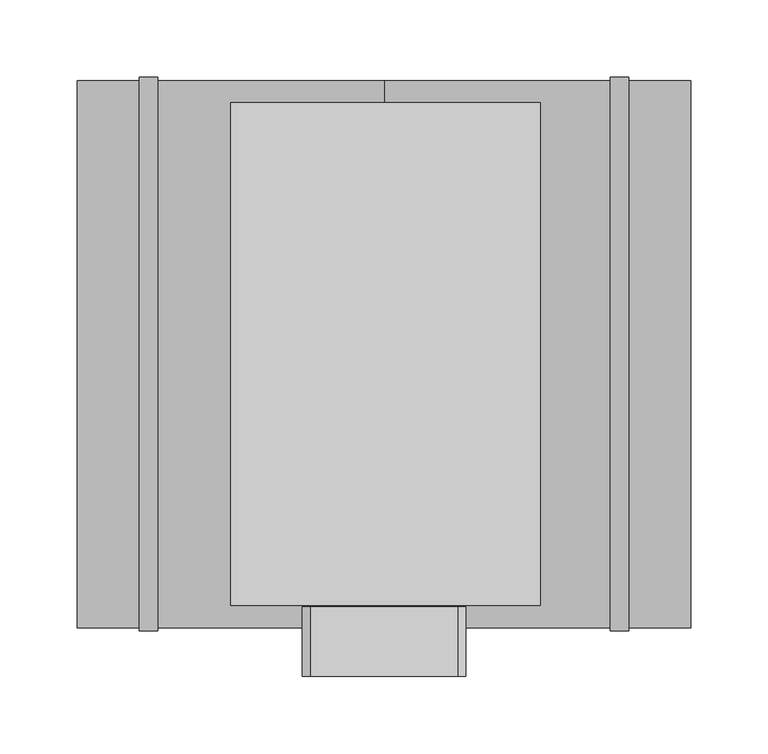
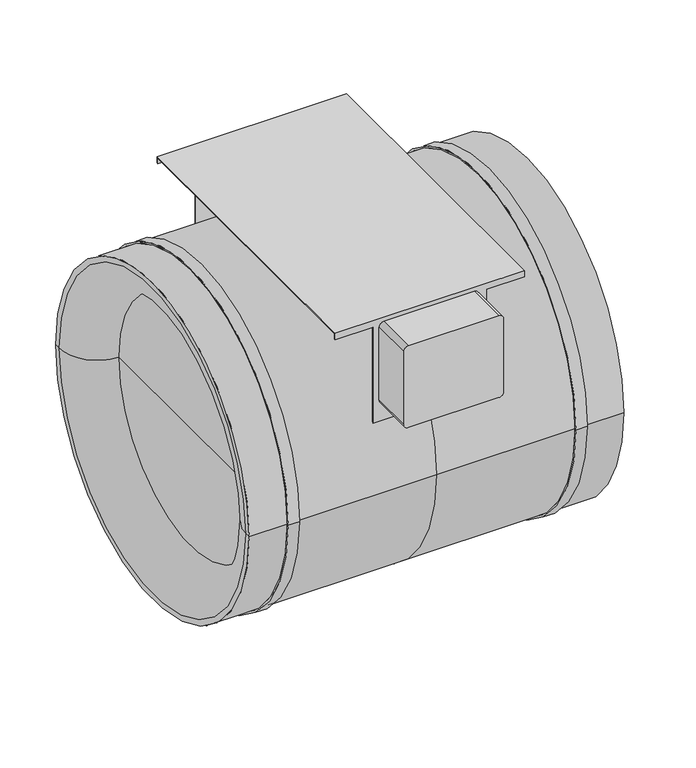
"""IFC4 building model written with IfcOpenShell, lengths in millimetres: unitary equipment geometry, VE-Wentylator-ParaForma-Harmann-JETTEC-Nawiewny : 355/2600S."""

from ifc_helpers import new_model, si_unit, point, frame, frame_2d, origin, place, context, project, spatial, polyline, circle_curve, ellipse_curve, trimmed, segment, composite_curve, outline, extrude, source, transform, mapped, element, save
from ifc_brep_helpers import plane_surface, cylinder_surface, revolved_surface, advanced_brep


def unitary_equipment_868456c3(model_context):
    return source(origin(), model_context, "Body", "SolidModel", [
        extrude(outline(composite_curve([segment(polyline([(88.6, -47.7), (88.6, 47.7)]), True, "CONTINUOUS"), segment(trimmed(circle_curve(frame_2d((93.6, 47.7)), 5.0), [point((88.6, 47.7))], [point((93.6, 52.7))], False, "CARTESIAN"), True, "CONTINUOUS"), segment(polyline([(93.6, 52.7), (174.6, 52.7)]), True, "CONTINUOUS"), segment(trimmed(circle_curve(frame_2d((174.6, 47.7)), 5.0), [point((174.6, 52.7))], [point((179.6, 47.7))], False, "CARTESIAN"), True, "CONTINUOUS"), segment(polyline([(179.6, 47.7), (179.6, -47.7)]), True, "CONTINUOUS"), segment(trimmed(circle_curve(frame_2d((174.6, -47.7)), 5.0), [point((179.6, -47.7))], [point((174.6, -52.7))], False, "CARTESIAN"), True, "CONTINUOUS"), segment(polyline([(174.6, -52.7), (93.6, -52.7)]), True, "CONTINUOUS"), segment(trimmed(circle_curve(frame_2d((93.6, -47.7)), 5.0), [point((93.6, -52.7))], [point((88.6, -47.7))], False, "CARTESIAN"), True, "CONTINUOUS")], self_intersect=False)), frame((0.0, -208.3, 0.0), z_axis=(0.0, 1.0, 0.0), x_axis=(0.0, 0.0, 1.0)), (0.0, 0.0, 1.0), 45.0),
        advanced_brep(
        [(101.0, 162.5, 176.8), (101.0, 162.5, 183.8), (101.0, -162.5, 183.8), (101.0, -162.5, 176.8), (101.0, -161.5, 176.8), (101.0, -161.5, 182.8), (101.0, 161.5, 182.8), (101.0, 161.5, 176.8), (61.0, 161.5, 176.8), (61.0, 162.5, 176.8), (-99.0, 161.5, 182.8), (-99.0, 161.5, 176.8), (-59.0, 161.5, 176.8), (-59.0, 161.5, 71.8213931), (61.0, 161.5, 71.8213931), (-99.0, -161.5, 182.8), (61.0, -161.5, 176.8), (61.0, -161.5, 71.8213931), (-59.0, -161.5, 71.8213931), (-59.0, -161.5, 176.8), (-99.0, -161.5, 176.8), (61.0, -162.5, 176.8), (-99.0, -162.5, 183.8), (-99.0, -162.5, 176.8), (-59.0, -162.5, 176.8), (-59.0, -162.5, 69.5292205), (61.0, -162.5, 69.5292205), (-99.0, 162.5, 183.8), (61.0, 162.5, 69.5292205), (-59.0, 162.5, 69.5292205), (-59.0, 162.5, 176.8), (-99.0, 162.5, 176.8)],
        [
            (0, 1),
            (1, 2),
            (2, 3),
            (3, 4),
            (4, 5),
            (5, 6),
            (6, 7),
            (7, 0),
            (7, 8),
            (8, 9),
            (9, 0),
            (6, 10),
            (10, 11),
            (11, 12),
            (12, 13),
            (13, 14),
            (14, 8),
            (5, 15),
            (15, 10),
            (4, 16),
            (16, 17),
            (17, 18),
            (18, 19),
            (19, 20),
            (20, 15),
            (3, 21),
            (21, 16),
            (2, 22),
            (22, 23),
            (23, 24),
            (24, 25),
            (25, 26),
            (26, 21),
            (1, 27),
            (27, 22),
            (9, 28),
            (28, 29),
            (29, 30),
            (30, 31),
            (31, 27),
            (29, 13, circle_curve(frame((-59.0, 0.0, 0.0), z_axis=(1.0, 0.0, 0.0), x_axis=(0.0, 1.0, 0.0)), 176.75)),
            (12, 30),
            (18, 25, circle_curve(frame((-59.0, 0.0, 0.0), z_axis=(1.0, 0.0, 0.0), x_axis=(0.0, 1.0, 0.0)), 176.75)),
            (24, 19),
            (14, 28, circle_curve(frame((61.0, 0.0, 0.0), z_axis=(-1.0, 0.0, 0.0), x_axis=(0.0, 1.0, 0.0)), 176.75)),
            (26, 17, circle_curve(frame((61.0, 0.0, 0.0), z_axis=(-1.0, 0.0, 0.0), x_axis=(0.0, 1.0, 0.0)), 176.75)),
            (31, 11),
            (20, 23),
        ],
        [
            plane_surface(frame((101.0, 0.0, 0.0), z_axis=(1.0, 0.0, 0.0), x_axis=(0.0, 0.0, 1.0))),
            plane_surface(frame((61.0, 162.5, 176.8), z_axis=(0.0, 0.0, -1.0), x_axis=(1.0, 0.0, 0.0))),
            plane_surface(frame((61.0, 161.5, 176.8), z_axis=(0.0, -1.0, 0.0), x_axis=(1.0, 0.0, 0.0))),
            plane_surface(frame((61.0, -153.1677351, 182.8), z_axis=(0.0, 0.0, -1.0), x_axis=(1.0, 0.0, 0.0))),
            plane_surface(frame((61.0, -161.5, 182.8), z_axis=(0.0, 1.0, 0.0), x_axis=(1.0, 0.0, 0.0))),
            plane_surface(frame((61.0, -161.5, 176.8), z_axis=(0.0, 0.0, -1.0), x_axis=(1.0, 0.0, 0.0))),
            plane_surface(frame((61.0, -162.5, 176.8), z_axis=(0.0, -1.0, 0.0), x_axis=(1.0, 0.0, 0.0))),
            plane_surface(frame((61.0, 152.5, 183.8), z_axis=(0.0, 0.0, 1.0), x_axis=(1.0, 0.0, 0.0))),
            plane_surface(frame((61.0, 162.5, 183.8), z_axis=(0.0, 1.0, 0.0), x_axis=(1.0, 0.0, 0.0))),
            plane_surface(frame((-59.0, 0.0, 0.0), z_axis=(-1.0, 0.0, 0.0), x_axis=(0.0, 0.0, 1.0))),
            plane_surface(frame((61.0, 0.0, 0.0), z_axis=(1.0, 0.0, 0.0), x_axis=(0.0, 0.0, 1.0))),
            revolved_surface(polyline([(-59.0, 176.75, 0.0), (61.0, 176.75, 0.0)]), (-59.0, 0.0, 0.0), (-1.0, 0.0, 0.0)),
            plane_surface(frame((-99.0, 0.0, 0.0), z_axis=(-1.0, 0.0, 0.0), x_axis=(0.0, 0.0, 1.0))),
            plane_surface(frame((-99.0, 162.5, 176.8), z_axis=(0.0, 0.0, -1.0), x_axis=(1.0, 0.0, 0.0))),
            plane_surface(frame((-99.0, -161.5, 176.8), z_axis=(0.0, 0.0, -1.0), x_axis=(1.0, 0.0, 0.0))),
        ],
        [
            (0, [[1, 2, 3, 4, 5, 6, 7, 8]]),
            (1, [[-8, 9, 10, 11]]),
            (2, [[-7, 12, 13, 14, 15, 16, 17, -9]]),
            (3, [[-12, -6, 18, 19]]),
            (4, [[-18, -5, 20, 21, 22, 23, 24, 25]]),
            (5, [[-4, 26, 27, -20]]),
            (6, [[-3, 28, 29, 30, 31, 32, 33, -26]]),
            (7, [[-28, -2, 34, 35]]),
            (8, [[-34, -1, -11, 36, 37, 38, 39, 40]]),
            (9, [[41, -15, 42, -38]]),
            (9, [[43, -31, 44, -23]]),
            (10, [[45, -36, -10, -17]]),
            (10, [[46, -21, -27, -33]]),
            (11, [[-41, -37, -45, -16]]),
            (11, [[-43, -22, -46, -32]]),
            (12, [[47, -13, -19, -25, 48, -29, -35, -40]]),
            (13, [[-47, -39, -42, -14]]),
            (14, [[-48, -24, -44, -30]]),
        ],
    ),
        advanced_brep(
        [(-146.0, 176.8, 0.0), (0.0, 176.8, 0.0), (0.0, -176.8, 0.0), (-146.0, -176.8, 0.0), (-198.0, -176.8, 0.0), (-198.0, 176.8, 0.0), (-158.0, 176.8, 0.0), (-158.0, -176.8, 0.0), (-198.0, -171.0, 0.0), (-198.0, 171.0, 0.0), (-158.0, -131.0, 0.0), (-158.0, 131.0, 0.0), (-158.0, 0.0, 0.0), (198.0, -176.8, 0.0), (198.0, 176.8, 0.0), (198.0, 0.0, 0.0), (158.0, -176.8, 0.0), (158.0, 176.8, 0.0), (146.0, 176.8, 0.0), (146.0, -176.8, 0.0), (-146.0, -178.8, 0.0), (-146.0, 178.8, 0.0), (-158.0, -178.8, 0.0), (-158.0, 178.8, 0.0), (158.0, -178.8, 0.0), (158.0, 178.8, 0.0), (146.0, -178.8, 0.0), (146.0, 178.8, 0.0)],
        [
            (0, 1),
            (1, 2, circle_curve(frame((0.0, 0.0, 0.0), z_axis=(-1.0, 0.0, 0.0), x_axis=(0.0, 1.0, 0.0)), 176.8)),
            (2, 3),
            (3, 0, circle_curve(frame((-146.0, 0.0, 0.0), z_axis=(1.0, 0.0, 0.0), x_axis=(0.0, 1.0, 0.0)), 176.8)),
            (0, 3, circle_curve(frame((-146.0, 0.0, 0.0), z_axis=(1.0, 0.0, 0.0), x_axis=(0.0, 1.0, 0.0)), 176.8)),
            (2, 1, circle_curve(frame((0.0, 0.0, 0.0), z_axis=(-1.0, 0.0, 0.0), x_axis=(0.0, 1.0, 0.0)), 176.8)),
            (4, 5, circle_curve(frame((-198.0, 0.0, 0.0), z_axis=(1.0, 0.0, 0.0), x_axis=(0.0, 1.0, 0.0)), 176.8)),
            (5, 6),
            (6, 7, circle_curve(frame((-158.0, 0.0, 0.0), z_axis=(-1.0, 0.0, 0.0), x_axis=(0.0, 1.0, 0.0)), 176.8)),
            (7, 4),
            (5, 4, circle_curve(frame((-198.0, 0.0, 0.0), z_axis=(1.0, 0.0, 0.0), x_axis=(0.0, 1.0, 0.0)), 176.8)),
            (7, 6, circle_curve(frame((-158.0, 0.0, 0.0), z_axis=(-1.0, 0.0, 0.0), x_axis=(0.0, 1.0, 0.0)), 176.8)),
            (4, 8),
            (8, 9, circle_curve(frame((-198.0, 0.0, 0.0), z_axis=(1.0, 0.0, 0.0), x_axis=(0.0, 1.0, 0.0)), 171.0)),
            (9, 5),
            (9, 8, circle_curve(frame((-198.0, 0.0, 0.0), z_axis=(1.0, 0.0, 0.0), x_axis=(0.0, 1.0, 0.0)), 171.0)),
            (8, 10, circle_curve(frame((-158.0, -171.0, 0.0), z_axis=(0.0, 0.0, -1.0), x_axis=(1.0, 0.0, 0.0)), 40.0)),
            (10, 11, circle_curve(frame((-158.0, 0.0, 0.0), z_axis=(1.0, 0.0, 0.0), x_axis=(0.0, 1.0, 0.0)), 131.0)),
            (11, 9, circle_curve(frame((-158.0, 171.0, 0.0), z_axis=(0.0, 0.0, -1.0), x_axis=(1.0, 0.0, 0.0)), 40.0)),
            (11, 10, circle_curve(frame((-158.0, 0.0, 0.0), z_axis=(1.0, 0.0, 0.0), x_axis=(0.0, 1.0, 0.0)), 131.0)),
            (10, 12),
            (12, 11),
            (13, 14, circle_curve(frame((198.0, 0.0, 0.0), z_axis=(1.0, 0.0, 0.0), x_axis=(0.0, 1.0, 0.0)), 176.8)),
            (14, 15),
            (15, 13),
            (14, 13, circle_curve(frame((198.0, 0.0, 0.0), z_axis=(1.0, 0.0, 0.0), x_axis=(0.0, 1.0, 0.0)), 176.8)),
            (13, 16),
            (16, 17, circle_curve(frame((158.0, 0.0, 0.0), z_axis=(1.0, 0.0, 0.0), x_axis=(0.0, 1.0, 0.0)), 176.8)),
            (17, 14),
            (17, 16, circle_curve(frame((158.0, 0.0, 0.0), z_axis=(1.0, 0.0, 0.0), x_axis=(0.0, 1.0, 0.0)), 176.8)),
            (1, 18),
            (18, 19, circle_curve(frame((146.0, 0.0, 0.0), z_axis=(-1.0, 0.0, 0.0), x_axis=(0.0, 1.0, 0.0)), 176.8)),
            (19, 2),
            (19, 18, circle_curve(frame((146.0, 0.0, 0.0), z_axis=(-1.0, 0.0, 0.0), x_axis=(0.0, 1.0, 0.0)), 176.8)),
            (20, 21, circle_curve(frame((-146.0, 0.0, 0.0), z_axis=(1.0, 0.0, 0.0), x_axis=(0.0, 1.0, 0.0)), 178.8)),
            (21, 0),
            (3, 20),
            (21, 20, circle_curve(frame((-146.0, 0.0, 0.0), z_axis=(1.0, 0.0, 0.0), x_axis=(0.0, 1.0, 0.0)), 178.8)),
            (20, 22),
            (22, 23, circle_curve(frame((-158.0, 0.0, 0.0), z_axis=(1.0, 0.0, 0.0), x_axis=(0.0, 1.0, 0.0)), 178.8)),
            (23, 21),
            (23, 22, circle_curve(frame((-158.0, 0.0, 0.0), z_axis=(1.0, 0.0, 0.0), x_axis=(0.0, 1.0, 0.0)), 178.8)),
            (22, 7),
            (6, 23),
            (24, 25, circle_curve(frame((158.0, 0.0, 0.0), z_axis=(1.0, 0.0, 0.0), x_axis=(0.0, 1.0, 0.0)), 178.8)),
            (25, 17),
            (16, 24),
            (25, 24, circle_curve(frame((158.0, 0.0, 0.0), z_axis=(1.0, 0.0, 0.0), x_axis=(0.0, 1.0, 0.0)), 178.8)),
            (24, 26),
            (26, 27, circle_curve(frame((146.0, 0.0, 0.0), z_axis=(1.0, 0.0, 0.0), x_axis=(0.0, 1.0, 0.0)), 178.8)),
            (27, 25),
            (27, 26, circle_curve(frame((146.0, 0.0, 0.0), z_axis=(1.0, 0.0, 0.0), x_axis=(0.0, 1.0, 0.0)), 178.8)),
            (26, 19),
            (18, 27),
        ],
        [
            cylinder_surface(frame((-158.0, 0.0, 0.0), z_axis=(-1.0, 0.0, 0.0), x_axis=(0.0, 1.0, 0.0)), 176.8),
            plane_surface(frame((-198.0, 0.0, 0.0), z_axis=(-1.0, 0.0, 0.0), x_axis=(0.0, 1.0, 0.0))),
            revolved_surface(trimmed(ellipse_curve(frame((-158.0, 171.0, 0.0), z_axis=(0.0, 0.0, 1.0), x_axis=(1.0, 0.0, 0.0)), 40.0, 40.0), [point((-198.0, 171.0, 0.0))], [point((-158.0, 131.0, 0.0))], True, "CARTESIAN"), (-158.0, 0.0, 0.0), (-1.0, 0.0, 0.0)),
            plane_surface(frame((-158.0, 0.0, 0.0), z_axis=(-1.0, 0.0, 0.0), x_axis=(0.0, 1.0, 0.0))),
            plane_surface(frame((198.0, 0.0, 0.0), z_axis=(1.0, 0.0, 0.0), x_axis=(0.0, 1.0, 0.0))),
            cylinder_surface(frame((0.0, 0.0, 0.0), z_axis=(-1.0, 0.0, 0.0), x_axis=(0.0, 1.0, 0.0)), 176.8),
            plane_surface(frame((-146.0, 0.0, 0.0), z_axis=(1.0, 0.0, 0.0), x_axis=(0.0, 1.0, 0.0))),
            cylinder_surface(frame((-158.0, 0.0, 0.0), z_axis=(-1.0, 0.0, 0.0), x_axis=(0.0, 1.0, 0.0)), 178.8),
            plane_surface(frame((158.0, 0.0, 0.0), z_axis=(1.0, 0.0, 0.0), x_axis=(0.0, 1.0, 0.0))),
            plane_surface(frame((146.0, 0.0, 0.0), z_axis=(-1.0, 0.0, 0.0), x_axis=(0.0, 1.0, 0.0))),
        ],
        [
            (0, [[1, 2, 3, 4]]),
            (0, [[-1, 5, -3, 6]]),
            (0, [[7, 8, 9, 10]]),
            (0, [[-8, 11, -10, 12]]),
            (1, [[-7, 13, 14, 15]]),
            (1, [[-11, -15, 16, -13]]),
            (2, [[-14, 17, 18, 19]]),
            (2, [[-16, -19, 20, -17]]),
            (3, [[-18, 21, 22]]),
            (3, [[-20, -22, -21]]),
            (4, [[23, 24, 25]]),
            (4, [[-24, 26, -25]]),
            (5, [[-23, 27, 28, 29]]),
            (5, [[-26, -29, 30, -27]]),
            (5, [[31, 32, 33, -2]]),
            (5, [[-31, -6, -33, 34]]),
            (6, [[35, 36, -4, 37]]),
            (6, [[38, -37, -5, -36]]),
            (7, [[-35, 39, 40, 41]]),
            (7, [[-38, -41, 42, -39]]),
            (3, [[-40, 43, -9, 44]]),
            (3, [[-42, -44, -12, -43]]),
            (8, [[45, 46, -28, 47]]),
            (8, [[48, -47, -30, -46]]),
            (7, [[-45, 49, 50, 51]]),
            (7, [[-48, -51, 52, -49]]),
            (9, [[-50, 53, -32, 54]]),
            (9, [[-52, -54, -34, -53]]),
        ],
    ),
    ])


if __name__ == "__main__":
    model = new_model("IFC4")
    model_context = context("Model", 3, world=origin())
    ifc_project = project(units=[si_unit("LENGTHUNIT", "METRE", prefix="MILLI")], contexts=[model_context])
    site = spatial("IfcSite", under=ifc_project)
    building = spatial("IfcBuilding", under=site)
    placement = place(None, origin())
    unitary_equipment_shape = unitary_equipment_868456c3(model_context)
    element("IfcUnitaryEquipment", 1, ObjectType="VE-Wentylator-ParaForma-Harmann-JETTEC-Nawiewny : 355/2600S", at=placement, inside=building, context=model_context, shape_type="MappedRepresentation", body=[
        mapped(unitary_equipment_shape, transform((0.0, 0.0, 0.0), x_axis=(1.0, 0.0, 0.0), y_axis=(0.0, 1.0, 0.0), z_axis=(0.0, 0.0, 1.0))),
    ])
    save(model, "model.ifc")
